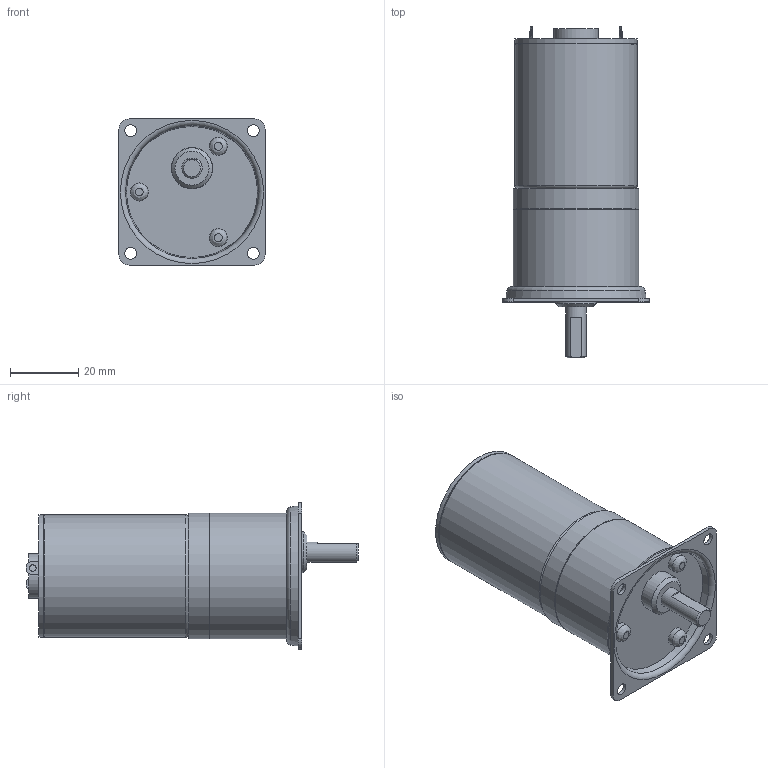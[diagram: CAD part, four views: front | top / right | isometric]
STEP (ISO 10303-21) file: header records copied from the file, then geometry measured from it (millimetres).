
FILE_DESCRIPTION((''),'2;1');
FILE_NAME('C:\Documents and Settings\SSEGAWA\デスクトップ\TP-3644D-PHM-4.STP','2013-07-25T17:53:45',('SSEGAWA'),(''),'Autodesk Inventor 2010','Autodesk Inventor 2010','');
FILE_SCHEMA(('CONFIG_CONTROL_DESIGN'));
Length unit declared in the file: millimetre
Products named in the file (1): tp_3644dh_phm-4_Shrinkwrap_1
Bounding box: 43 x 97.6 x 43 mm (x, y, z)
Volume: 79075.9 mm3; surface area: 14737.8 mm2
Topology: 1 solids, 9 shells, 97 faces, 203 edges, 136 vertices
Faces by surface type: plane 42, cylinder 25, bspline 23, cone 4, torus 3
Full cylindrical faces by diameter (mm): 3 x1, 3.5 x1, 5.3 x3, 6 x1, 12 x1, 12.2 x1, 13 x1, 35.6 x1, 36 x2, 36.6 x1, 37 x2
Entity records: 2693 total; most frequent: CARTESIAN_POINT 819, DIRECTION 371, ORIENTED_EDGE 268, EDGE_LOOP 165, AXIS2_PLACEMENT_3D 164, EDGE_CURVE 134, VERTEX_POINT 111, STYLED_ITEM 98
